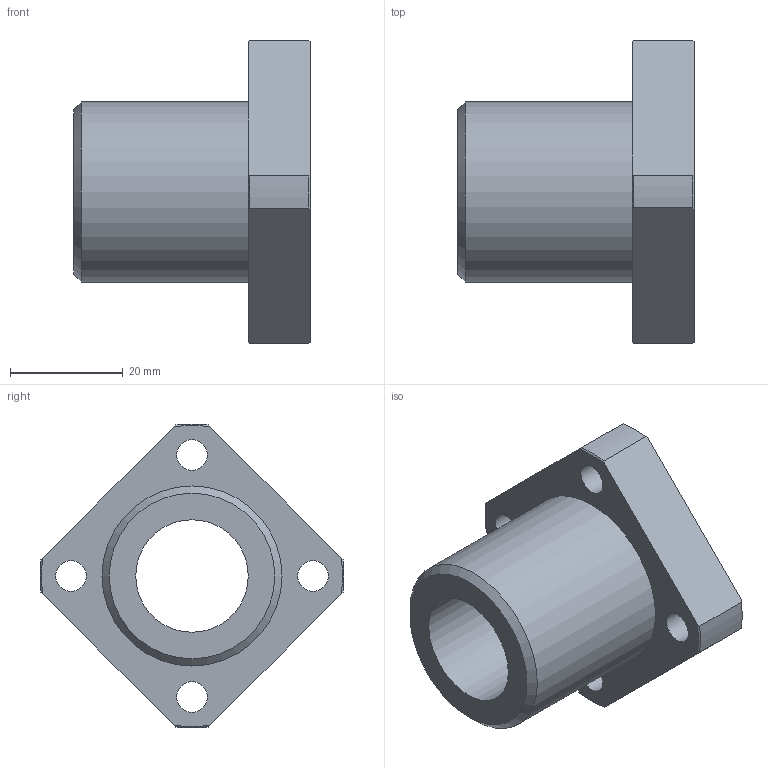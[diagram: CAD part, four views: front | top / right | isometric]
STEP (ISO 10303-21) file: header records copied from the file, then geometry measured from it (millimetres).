
FILE_DESCRIPTION(('STEP AP203'),'1');
FILE_NAME('//192.168.1.1/share/s-4 技術開発/s-4-4_CAD/s-4-4-3_見直し済み/PBC LINEAR修正済み/3D途中/SFPJ/SFPJ/SFPJ20.step','2022-03-24T05:51:39',(' '),(' '),'Spatial InterOp 3D',' ',' ');
FILE_SCHEMA(('CONFIG_CONTROL_DESIGN'));
Length unit declared in the file: millimetre
Products named in the file (1): 1
Bounding box: 42 x 53.97 x 53.97 mm (x, y, z)
Volume: 28866.3 mm3; surface area: 11047.7 mm2
Topology: 1 solids, 1 shells, 34 faces, 85 edges, 58 vertices
Faces by surface type: cylinder 14, plane 11, cone 9
Full cylindrical faces by diameter (mm): 5.5 x4, 9 x4, 20 x1, 32 x1
Entity records: 1018 total; most frequent: CARTESIAN_POINT 205, DIRECTION 160, ORIENTED_EDGE 138, AXIS2_PLACEMENT_3D 72, EDGE_CURVE 69, EDGE_LOOP 60, VERTEX_POINT 53, FACE_OUTER_BOUND 44
